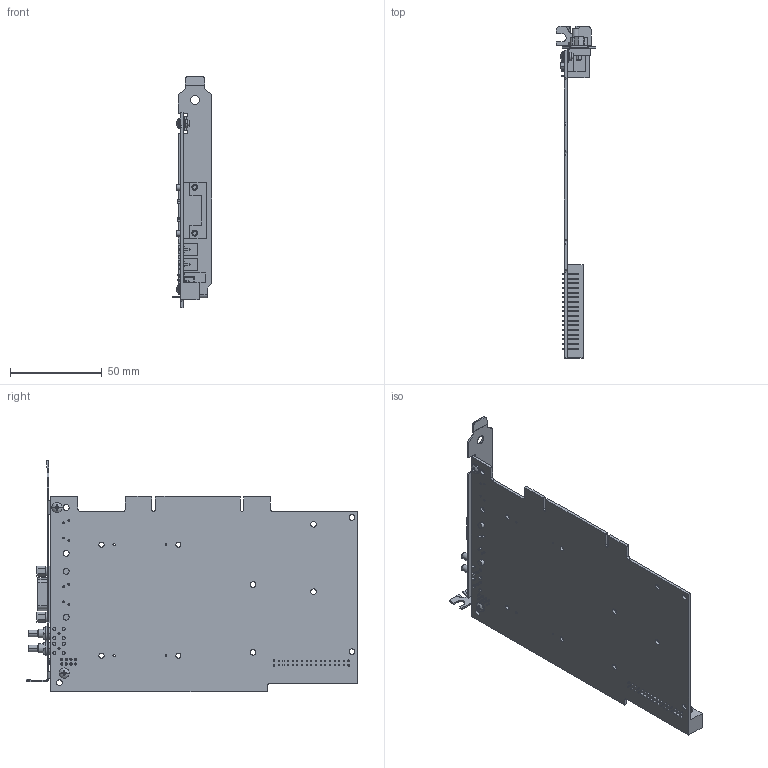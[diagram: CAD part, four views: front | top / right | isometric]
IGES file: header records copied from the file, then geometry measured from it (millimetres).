
Start section:  PTC IGES file: cu_pci-8513_1.igs
Global section: file name: cu_pci-8513_1.igs; native system: Pro/ENGINEER by Parametric Technology Corporation; preprocessor: 2006080; author: dcrowder; organization: Unknown; date: 090219.133324; units: inch
Bounding box: 21.59 x 180.92 x 126.37 mm (x, y, z)
Surface area: 46579.3 mm2 (no closed solid volume)
Topology: 0 solids, 0 shells, 1458 faces, 7874 edges, 7834 vertices
Faces by surface type: bspline 1022, revolution 436
